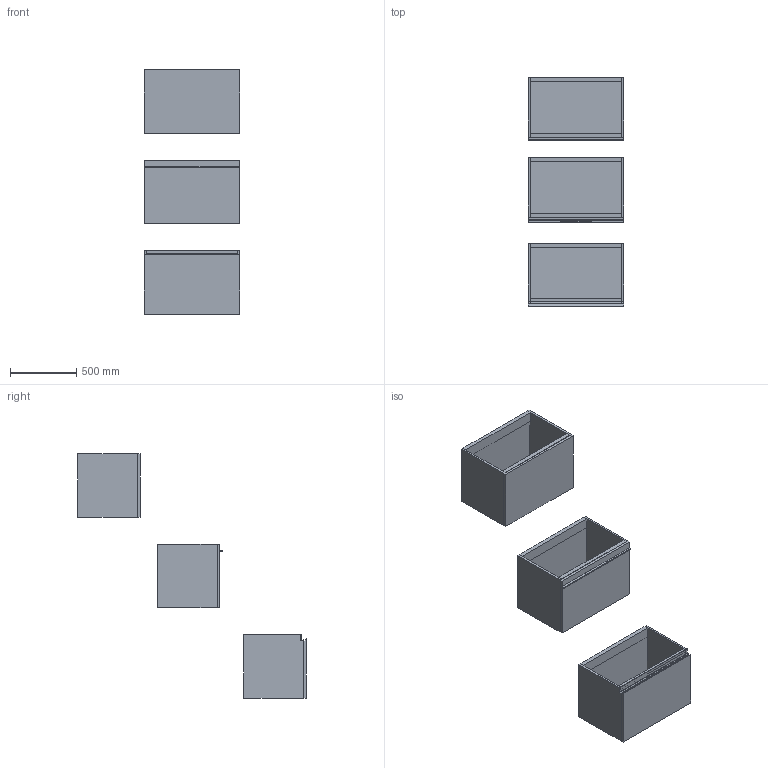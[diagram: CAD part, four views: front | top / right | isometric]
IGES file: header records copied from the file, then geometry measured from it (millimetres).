
Start section: Data from Parasolid IGES Translator 19.0.9, Copyright(c) 2006 Siemens PL M Software. All Rights Reserved.
Global section: file name: noorth-SI-H 48 D 47 W 72_8459.igs; native system: By Siemens PLM Incorporated; preprocessor: XPlus GENERIC/IGES 19.0.9; author: Noname; organization: Noname; date: 20200601.104229; units: metre
Bounding box: 720 x 1719.1 x 1840.01 mm (x, y, z)
Volume: 63344227.3 mm3; surface area: 9515337.5 mm2
Topology: 23 solids, 23 shells, 196 faces, 418 edges, 258 vertices
Faces by surface type: plane 152, extrusion 16, bspline 16, cylinder 12
